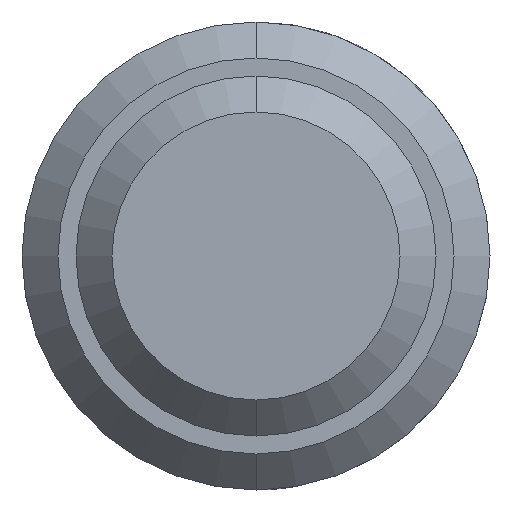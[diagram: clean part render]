
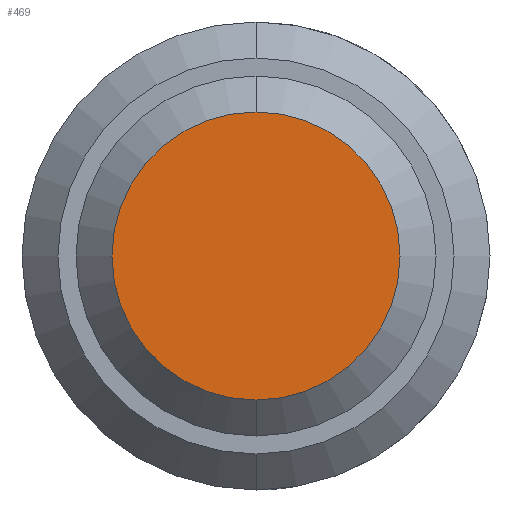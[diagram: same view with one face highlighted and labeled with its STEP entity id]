
A CAD part, front view. The second image highlights one B-rep face of the part: STEP entity #469.
In plain terms, the highlighted planar face has unit normal (0, -1, 0).
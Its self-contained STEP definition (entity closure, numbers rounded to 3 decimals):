
#3 = DIRECTION ( 'NONE',  ( 0., 0., 1. ) ) ;
#19 = CARTESIAN_POINT ( 'NONE',  ( 0., 0., 0. ) ) ;
#59 = EDGE_CURVE ( 'NONE', #506, #384, #321, .T. ) ;
#118 = PLANE ( 'NONE',  #571 ) ;
#137 = DIRECTION ( 'NONE',  ( 0., -1., 0. ) ) ;
#206 = ORIENTED_EDGE ( 'NONE', *, *, #651, .T. ) ;
#224 = CARTESIAN_POINT ( 'NONE',  ( 0., 0., 0. ) ) ;
#236 = EDGE_LOOP ( 'NONE', ( #206, #426 ) ) ;
#266 = AXIS2_PLACEMENT_3D ( 'NONE', #19, #293, #560 ) ;
#293 = DIRECTION ( 'NONE',  ( 0., -1., 0. ) ) ;
#321 = CIRCLE ( 'NONE', #622, 0.4 ) ;
#335 = CARTESIAN_POINT ( 'NONE',  ( 0., 0., 0.4 ) ) ;
#384 = VERTEX_POINT ( 'NONE', #335 ) ;
#426 = ORIENTED_EDGE ( 'NONE', *, *, #59, .T. ) ;
#469 = ADVANCED_FACE ( 'NONE', ( #675 ), #118, .F. ) ;
#478 = CARTESIAN_POINT ( 'NONE',  ( 0., 0., 0. ) ) ;
#488 = CIRCLE ( 'NONE', #266, 0.4 ) ;
#500 = CARTESIAN_POINT ( 'NONE',  ( 0., 0., -0.4 ) ) ;
#506 = VERTEX_POINT ( 'NONE', #500 ) ;
#560 = DIRECTION ( 'NONE',  ( 0., 0., 1. ) ) ;
#569 = DIRECTION ( 'NONE',  ( 0., 0., 1. ) ) ;
#571 = AXIS2_PLACEMENT_3D ( 'NONE', #224, #610, #3 ) ;
#610 = DIRECTION ( 'NONE',  ( 0., 1., 0. ) ) ;
#622 = AXIS2_PLACEMENT_3D ( 'NONE', #478, #137, #569 ) ;
#651 = EDGE_CURVE ( 'NONE', #384, #506, #488, .T. ) ;
#675 = FACE_OUTER_BOUND ( 'NONE', #236, .T. ) ;
